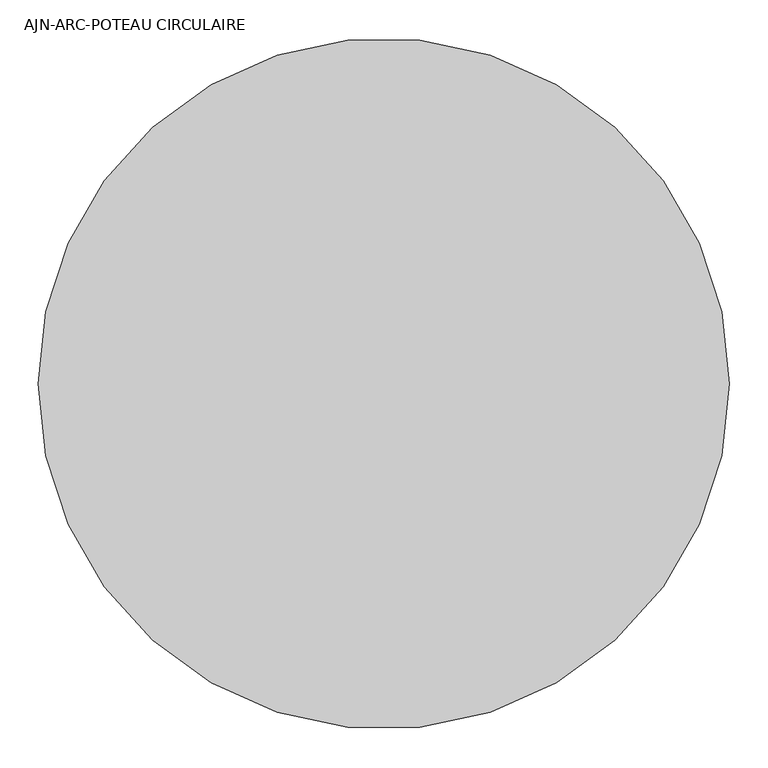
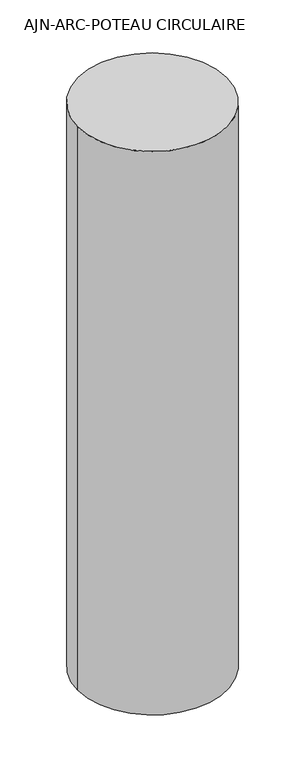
"""IFC4 building model written with IfcOpenShell, lengths in millimetres: column geometry, AJN-ARC-POTEAU CIRCULAIRE : ø90."""

from ifc_helpers import new_model, si_unit, point, frame, origin, origin_2d, place, context, project, spatial, circle_curve, trimmed, segment, composite_curve, outline, extrude, source, transform, mapped, element, save


def ajn_arc_poteau_circulaire_535159a1(model_context):
    return source(origin(), model_context, "Body", "SweptSolid", [
        extrude(outline(composite_curve([segment(trimmed(circle_curve(origin_2d(), 450.0), [point((-450.0, 0.0))], [point((450.0, 0.0))], False, "CARTESIAN"), True, "CONTINUOUS"), segment(trimmed(circle_curve(origin_2d(), 450.0), [point((450.0, 0.0))], [point((-450.0, 0.0))], False, "CARTESIAN"), True, "CONTINUOUS")], self_intersect=False)), frame((0.0, 0.0, 71199.9999686), z_axis=(0.0, 0.0, 1.0), x_axis=(1.0, 0.0, 0.0)), (0.0, 0.0, 1.0), 3600.0),
    ])


if __name__ == "__main__":
    model = new_model("IFC4")
    model_context = context("Model", 3, world=origin())
    ifc_project = project(units=[si_unit("LENGTHUNIT", "METRE", prefix="MILLI")], contexts=[model_context])
    site = spatial("IfcSite", under=ifc_project)
    building = spatial("IfcBuilding", under=site)
    placement = place(None, origin())
    ajn_arc_poteau_circulaire_shape = ajn_arc_poteau_circulaire_535159a1(model_context)
    element("IfcColumn", 1, ObjectType="AJN-ARC-POTEAU CIRCULAIRE : ø90", at=placement, inside=building, context=model_context, shape_type="MappedRepresentation", body=[
        mapped(ajn_arc_poteau_circulaire_shape, transform((0.0, 0.0, 0.0), x_axis=(1.0, 0.0, 0.0), y_axis=(0.0, 1.0, 0.0), z_axis=(0.0, 0.0, 1.0))),
    ])
    save(model, "model.ifc")
